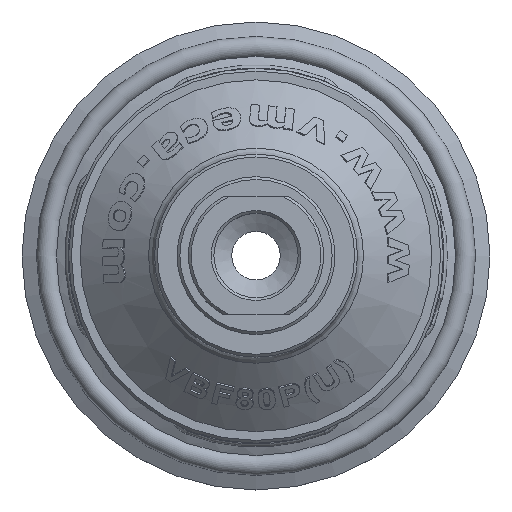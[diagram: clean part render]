
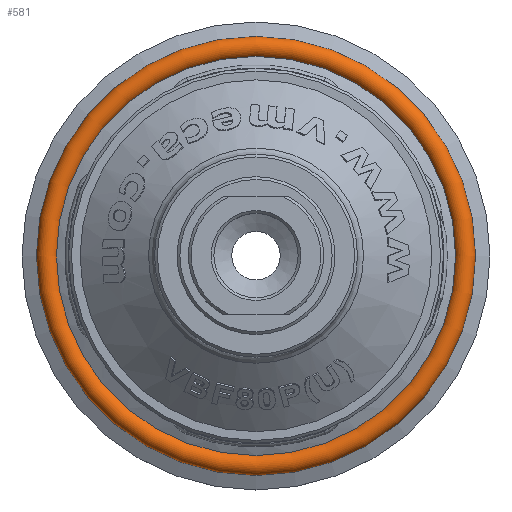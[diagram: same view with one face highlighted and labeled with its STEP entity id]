
A CAD part, top view. The second image highlights one B-rep face of the part: STEP entity #581.
In plain terms, the highlighted toroidal (fillet/blend) face has major radius 37.069 mm and minor radius 1.871 mm.
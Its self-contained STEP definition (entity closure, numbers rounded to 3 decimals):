
#581 = ADVANCED_FACE( '', ( #1306, #1307 ), #1308, .T. );
#1306 = FACE_OUTER_BOUND( '', #6114, .T. );
#1307 = FACE_OUTER_BOUND( '', #6115, .T. );
#1308 = TOROIDAL_SURFACE( '', #6116, 37.069, 1.871 );
#6114 = EDGE_LOOP( '', ( #11405 ) );
#6115 = EDGE_LOOP( '', ( #11406 ) );
#6116 = AXIS2_PLACEMENT_3D( '', #11407, #11408, #11409 );
#11405 = ORIENTED_EDGE( '', *, *, #12786, .F. );
#11406 = ORIENTED_EDGE( '', *, *, #12850, .T. );
#11407 = CARTESIAN_POINT( '', ( 0., 0., -20.793 ) );
#11408 = DIRECTION( '', ( 0., 0., 1. ) );
#11409 = DIRECTION( '', ( 1., 0., 0. ) );
#12786 = EDGE_CURVE( '', #13977, #13977, #13978, .T. );
#12850 = EDGE_CURVE( '', #14067, #14067, #14068, .T. );
#13977 = VERTEX_POINT( '', #18519 );
#13978 = CIRCLE( '', #18520, 35.402 );
#14067 = VERTEX_POINT( '', #19205 );
#14068 = CIRCLE( '', #19206, 38.736 );
#18519 = CARTESIAN_POINT( '', ( 35.402, 0., -19.943 ) );
#18520 = AXIS2_PLACEMENT_3D( '', #21510, #21511, #21512 );
#19205 = CARTESIAN_POINT( '', ( 38.736, 0., -21.642 ) );
#19206 = AXIS2_PLACEMENT_3D( '', #21519, #21520, #21521 );
#21510 = CARTESIAN_POINT( '', ( 0., 0., -19.943 ) );
#21511 = DIRECTION( '', ( 0., 0., 1. ) );
#21512 = DIRECTION( '', ( 1., 0., 0. ) );
#21519 = CARTESIAN_POINT( '', ( 0., 0., -21.642 ) );
#21520 = DIRECTION( '', ( 0., 0., 1. ) );
#21521 = DIRECTION( '', ( 1., 0., 0. ) );
